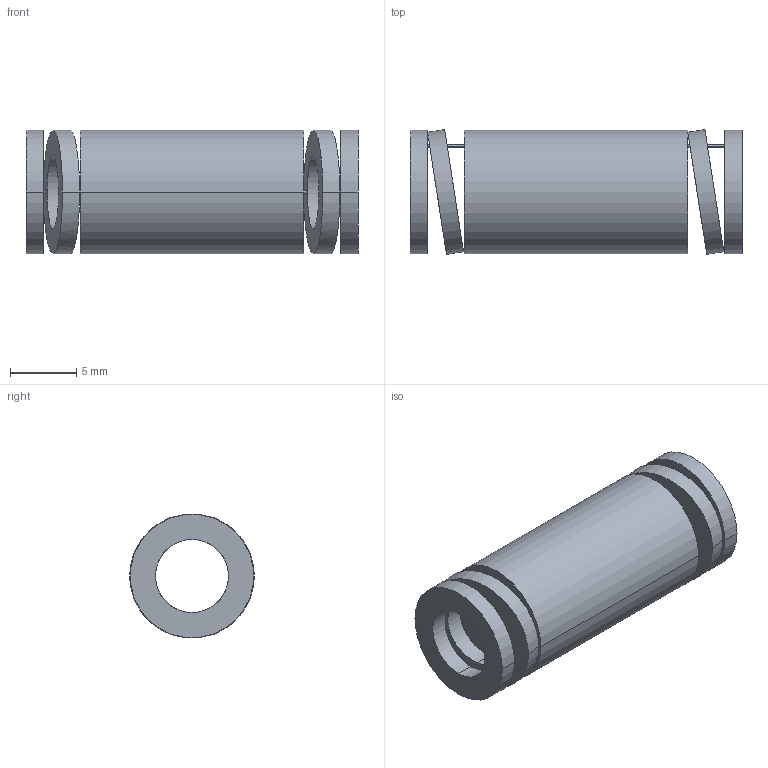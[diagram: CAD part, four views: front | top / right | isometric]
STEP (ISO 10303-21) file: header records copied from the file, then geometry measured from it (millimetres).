
FILE_DESCRIPTION(('CATIA V5 STEP Exchange'),'2;1');
FILE_NAME('C:\Users\Utente\Desktop\IO LAVORO\3D X SITO CF\X SITO\3D files 392B\392-B10-025.stp','2021-08-12T13:04:04+00:00',('none'),('none'),'CATIA Version 5 Release 20 GA (IN-10)','CATIA V5 STEP AP203','none');
FILE_SCHEMA(('CONFIG_CONTROL_DESIGN'));
Length unit declared in the file: millimetre
Products named in the file (1): 392-B10-025
Bounding box: 25 x 9.39 x 9.3 mm (x, y, z)
Volume: 971.1 mm3; surface area: 1465.6 mm2
Topology: 1 solids, 1 shells, 38 faces, 92 edges, 64 vertices
Faces by surface type: cylinder 28, plane 10
Entity records: 1560 total; most frequent: CARTESIAN_POINT 673, ORIENTED_EDGE 184, DIRECTION 128, EDGE_CURVE 92, VERTEX_POINT 64, AXIS2_PLACEMENT_3D 63, EDGE_LOOP 56, B_SPLINE_CURVE_WITH_KNOTS 40
